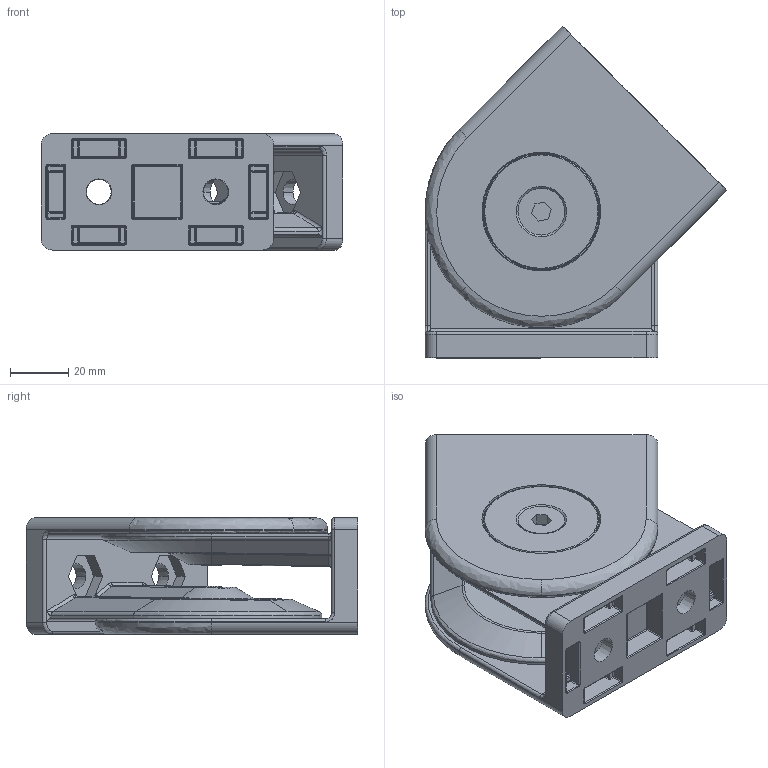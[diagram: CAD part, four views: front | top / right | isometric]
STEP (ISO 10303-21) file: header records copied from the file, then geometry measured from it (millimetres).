
FILE_DESCRIPTION (( 'STEP AP214' ), '1' );
FILE_NAME ('10159_GEL840.STEP', '2016-12-20T13:35:50', ( '' ), ( '' ), 'SwSTEP 2.0', 'SolidWorks 2016', '' );
FILE_SCHEMA (( 'AUTOMOTIVE_DESIGN' ));
Length unit declared in the file: millimetre
Products named in the file (5): Grundkörper; 10159_GEL840; M8x16sk; Gleitring; Zentrierscheibe
Assembly tree (8 placements, depth 2):
  10159_GEL840
    Grundkörper  x2
    Zentrierscheibe  x2
    Gleitring  x2
    M8x16sk  x2
Bounding box: 103.3 x 113.5 x 39.9 mm (x, y, z)
Volume: 160837.3 mm3; surface area: 82370.9 mm2
Topology: 8 solids, 8 shells, 1428 faces, 3272 edges, 1864 vertices
Faces by surface type: cylinder 498, bspline 470, plane 322, cone 138
Entity records: 25322 total; most frequent: CARTESIAN_POINT 10322, ORIENTED_EDGE 3230, DIRECTION 2976, EDGE_CURVE 1615, AXIS2_PLACEMENT_3D 1167, VERTEX_POINT 932, EDGE_LOOP 749, ADVANCED_FACE 714
